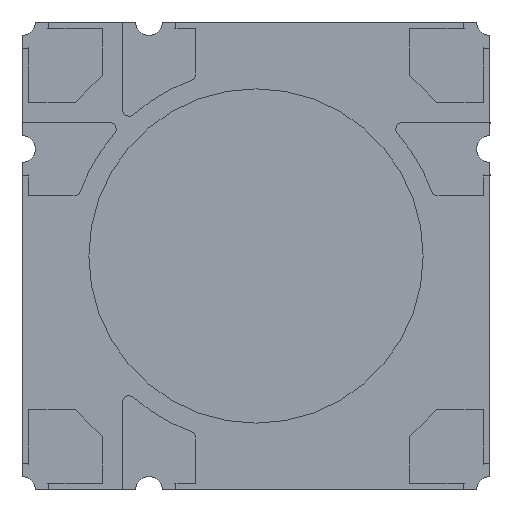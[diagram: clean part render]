
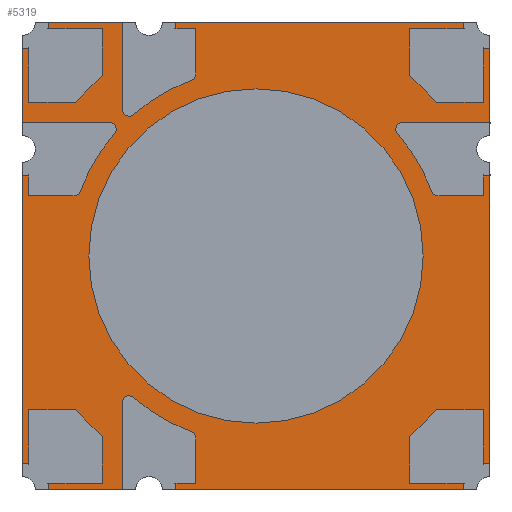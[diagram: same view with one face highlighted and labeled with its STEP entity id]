
A CAD part, front view. The second image highlights one B-rep face of the part: STEP entity #5319.
In plain terms, the highlighted planar face has unit normal (0, -1, 0).
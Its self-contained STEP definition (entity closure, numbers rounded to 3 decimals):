
#561 = LINE ( 'NONE', #563, #6079 ) ;
#563 = CARTESIAN_POINT ( 'NONE',  ( 3.5, 0.002, 3.5 ) ) ;
#564 = DIRECTION ( 'NONE',  ( 0., 0., -1. ) ) ;
#643 = LINE ( 'NONE', #644, #6115 ) ;
#644 = CARTESIAN_POINT ( 'NONE',  ( 3.5, 0.002, 3.5 ) ) ;
#645 = DIRECTION ( 'NONE',  ( 1., 0., 0. ) ) ;
#1491 = ORIENTED_EDGE ( 'NONE', *, *, #9446, .F. ) ;
#1495 = ORIENTED_EDGE ( 'NONE', *, *, #5605, .T. ) ;
#1553 = ORIENTED_EDGE ( 'NONE', *, *, #9441, .F. ) ;
#1674 = CARTESIAN_POINT ( 'NONE',  ( -3.5, 0.002, 1.6 ) ) ;
#1675 = DIRECTION ( 'NONE',  ( 0., 1., 0. ) ) ;
#1676 = DIRECTION ( 'NONE',  ( 0., 0., 1. ) ) ;
#2231 = CIRCLE ( 'NONE', #2234, 0.2 ) ;
#2233 = CIRCLE ( 'NONE', #2236, 0.2 ) ;
#2234 = AXIS2_PLACEMENT_3D ( 'NONE', #4932, #4933, #4935 ) ;
#2235 = CIRCLE ( 'NONE', #2238, 0.2 ) ;
#2236 = AXIS2_PLACEMENT_3D ( 'NONE', #4960, #4961, #4962 ) ;
#2237 = CIRCLE ( 'NONE', #2242, 0.2 ) ;
#2238 = AXIS2_PLACEMENT_3D ( 'NONE', #4979, #4980, #4981 ) ;
#2240 = CIRCLE ( 'NONE', #2243, 0.2 ) ;
#2242 = AXIS2_PLACEMENT_3D ( 'NONE', #4986, #4987, #4988 ) ;
#2243 = AXIS2_PLACEMENT_3D ( 'NONE', #5023, #5024, #5025 ) ;
#2245 = CIRCLE ( 'NONE', #2246, 0.2 ) ;
#2246 = AXIS2_PLACEMENT_3D ( 'NONE', #5043, #5044, #5045 ) ;
#2259 = VECTOR ( 'NONE', #5077, 1000. ) ;
#2273 = CIRCLE ( 'NONE', #2276, 0.2 ) ;
#2276 = AXIS2_PLACEMENT_3D ( 'NONE', #1674, #1675, #1676 ) ;
#2560 = VERTEX_POINT ( 'NONE', #3628 ) ;
#2562 = VERTEX_POINT ( 'NONE', #3630 ) ;
#2564 = VERTEX_POINT ( 'NONE', #3632 ) ;
#2566 = VERTEX_POINT ( 'NONE', #3634 ) ;
#2569 = VERTEX_POINT ( 'NONE', #3637 ) ;
#2570 = VERTEX_POINT ( 'NONE', #3638 ) ;
#2571 = VERTEX_POINT ( 'NONE', #3639 ) ;
#2573 = VERTEX_POINT ( 'NONE', #3641 ) ;
#2576 = VERTEX_POINT ( 'NONE', #3644 ) ;
#2580 = VERTEX_POINT ( 'NONE', #3648 ) ;
#2585 = VERTEX_POINT ( 'NONE', #3653 ) ;
#2591 = VERTEX_POINT ( 'NONE', #3659 ) ;
#2592 = VERTEX_POINT ( 'NONE', #3660 ) ;
#2596 = VERTEX_POINT ( 'NONE', #3664 ) ;
#2602 = VERTEX_POINT ( 'NONE', #3670 ) ;
#2635 = VERTEX_POINT ( 'NONE', #3703 ) ;
#2639 = VERTEX_POINT ( 'NONE', #3707 ) ;
#2873 = EDGE_LOOP ( 'NONE', ( #10693, #10736, #1553, #8045, #13209, #8042, #11123, #11125, #11127, #11124, #8043, #1491, #1495, #11142, #11144, #11122, #11133 ) ) ;
#3628 = CARTESIAN_POINT ( 'NONE',  ( 3.3, 0.002, -3.5 ) ) ;
#3630 = CARTESIAN_POINT ( 'NONE',  ( -1.8, 0.002, -3.5 ) ) ;
#3632 = CARTESIAN_POINT ( 'NONE',  ( 3.5, 0.002, 1.4 ) ) ;
#3634 = CARTESIAN_POINT ( 'NONE',  ( -3.5, 0.002, 1.8 ) ) ;
#3637 = CARTESIAN_POINT ( 'NONE',  ( -3.3, 0.002, -3.5 ) ) ;
#3638 = CARTESIAN_POINT ( 'NONE',  ( 3.5, 0.002, -3.3 ) ) ;
#3639 = CARTESIAN_POINT ( 'NONE',  ( -3.5, 0.002, 3.3 ) ) ;
#3641 = CARTESIAN_POINT ( 'NONE',  ( 3.3, 0.002, 3.5 ) ) ;
#3644 = CARTESIAN_POINT ( 'NONE',  ( -1.4, 0.002, 3.5 ) ) ;
#3648 = CARTESIAN_POINT ( 'NONE',  ( -3.5, 0.002, 1.4 ) ) ;
#3653 = CARTESIAN_POINT ( 'NONE',  ( -1.8, 0.002, 3.5 ) ) ;
#3659 = CARTESIAN_POINT ( 'NONE',  ( 3.5, 0.002, 3.3 ) ) ;
#3660 = CARTESIAN_POINT ( 'NONE',  ( -3.3, 0.002, 3.5 ) ) ;
#3664 = CARTESIAN_POINT ( 'NONE',  ( -3.5, 0.002, -3.3 ) ) ;
#3670 = CARTESIAN_POINT ( 'NONE',  ( 3.5, 0.002, 1.8 ) ) ;
#3703 = CARTESIAN_POINT ( 'NONE',  ( -1.6, 0.002, -3.3 ) ) ;
#3707 = CARTESIAN_POINT ( 'NONE',  ( -1.4, 0.002, -3.5 ) ) ;
#4932 = CARTESIAN_POINT ( 'NONE',  ( -3.5, 0.002, 3.5 ) ) ;
#4933 = DIRECTION ( 'NONE',  ( 0., 1., 0. ) ) ;
#4935 = DIRECTION ( 'NONE',  ( 0., 0., -1. ) ) ;
#4960 = CARTESIAN_POINT ( 'NONE',  ( -1.6, 0.002, 3.5 ) ) ;
#4961 = DIRECTION ( 'NONE',  ( 0., 1., 0. ) ) ;
#4962 = DIRECTION ( 'NONE',  ( 0., 0., -1. ) ) ;
#4979 = CARTESIAN_POINT ( 'NONE',  ( 3.5, 0.002, 3.5 ) ) ;
#4980 = DIRECTION ( 'NONE',  ( 0., 1., 0. ) ) ;
#4981 = DIRECTION ( 'NONE',  ( 0., 0., -1. ) ) ;
#4986 = CARTESIAN_POINT ( 'NONE',  ( 3.5, 0.002, 1.6 ) ) ;
#4987 = DIRECTION ( 'NONE',  ( 0., 1., 0. ) ) ;
#4988 = DIRECTION ( 'NONE',  ( 0., 0., -1. ) ) ;
#5023 = CARTESIAN_POINT ( 'NONE',  ( 3.5, 0.002, -3.5 ) ) ;
#5024 = DIRECTION ( 'NONE',  ( 0., 1., 0. ) ) ;
#5025 = DIRECTION ( 'NONE',  ( 0., 0., 1. ) ) ;
#5043 = CARTESIAN_POINT ( 'NONE',  ( -1.6, 0.002, -3.5 ) ) ;
#5044 = DIRECTION ( 'NONE',  ( 0., 1., 0. ) ) ;
#5045 = DIRECTION ( 'NONE',  ( 0., 0., 1. ) ) ;
#5068 = CARTESIAN_POINT ( 'NONE',  ( 3.5, 0.002, 3.5 ) ) ;
#5072 = LINE ( 'NONE', #5068, #2259 ) ;
#5077 = DIRECTION ( 'NONE',  ( 1., 0., 0. ) ) ;
#5230 = EDGE_CURVE ( 'NONE', #2566, #2571, #8548, .T. ) ;
#5319 = ADVANCED_FACE ( 'NONE', ( #9659 ), #9645, .F. ) ;
#5600 = EDGE_CURVE ( 'NONE', #2592, #2571, #2231, .T. ) ;
#5602 = EDGE_CURVE ( 'NONE', #2576, #2585, #2233, .T. ) ;
#5605 = EDGE_CURVE ( 'NONE', #2591, #2573, #2235, .T. ) ;
#5607 = EDGE_CURVE ( 'NONE', #2564, #2602, #2237, .T. ) ;
#5610 = EDGE_CURVE ( 'NONE', #2560, #2570, #2240, .T. ) ;
#5612 = EDGE_CURVE ( 'NONE', #2562, #2635, #2245, .T. ) ;
#5623 = EDGE_CURVE ( 'NONE', #2592, #2585, #5072, .T. ) ;
#5639 = EDGE_CURVE ( 'NONE', #2566, #2580, #2273, .T. ) ;
#6079 = VECTOR ( 'NONE', #564, 1000. ) ;
#6115 = VECTOR ( 'NONE', #645, 1000. ) ;
#6582 = CARTESIAN_POINT ( 'NONE',  ( -1.6, 0.002, -3.5 ) ) ;
#6584 = DIRECTION ( 'NONE',  ( 0., 1., 0. ) ) ;
#6586 = DIRECTION ( 'NONE',  ( 0., 0., 1. ) ) ;
#6636 = LINE ( 'NONE', #6637, #10773 ) ;
#6637 = CARTESIAN_POINT ( 'NONE',  ( -3.5, 0.002, 3.5 ) ) ;
#6638 = DIRECTION ( 'NONE',  ( 0., 0., 1. ) ) ;
#6651 = LINE ( 'NONE', #6653, #10780 ) ;
#6653 = CARTESIAN_POINT ( 'NONE',  ( 3.5, 0.002, 3.5 ) ) ;
#6654 = DIRECTION ( 'NONE',  ( 0., 0., -1. ) ) ;
#6759 = LINE ( 'NONE', #6761, #10827 ) ;
#6761 = CARTESIAN_POINT ( 'NONE',  ( 3.5, 0.002, -3.5 ) ) ;
#6762 = DIRECTION ( 'NONE',  ( -1., 0., 0. ) ) ;
#6835 = LINE ( 'NONE', #6837, #10861 ) ;
#6837 = CARTESIAN_POINT ( 'NONE',  ( 3.5, 0.002, -3.5 ) ) ;
#6838 = DIRECTION ( 'NONE',  ( -1., 0., 0. ) ) ;
#6993 = CARTESIAN_POINT ( 'NONE',  ( -3.5, 0.002, -3.5 ) ) ;
#6994 = DIRECTION ( 'NONE',  ( 0., 1., 0. ) ) ;
#6995 = DIRECTION ( 'NONE',  ( 0., 0., 1. ) ) ;
#8042 = ORIENTED_EDGE ( 'NONE', *, *, #5612, .T. ) ;
#8043 = ORIENTED_EDGE ( 'NONE', *, *, #5607, .T. ) ;
#8045 = ORIENTED_EDGE ( 'NONE', *, *, #12100, .T. ) ;
#8548 = LINE ( 'NONE', #8559, #10659 ) ;
#8559 = CARTESIAN_POINT ( 'NONE',  ( -3.5, 0.002, 3.5 ) ) ;
#8561 = DIRECTION ( 'NONE',  ( 0., 0., 1. ) ) ;
#9428 = EDGE_CURVE ( 'NONE', #2635, #2639, #10755, .T. ) ;
#9441 = EDGE_CURVE ( 'NONE', #2596, #2580, #6636, .T. ) ;
#9446 = EDGE_CURVE ( 'NONE', #2591, #2602, #6651, .T. ) ;
#9482 = EDGE_CURVE ( 'NONE', #2560, #2639, #6759, .T. ) ;
#9645 = PLANE ( 'NONE',  #12387 ) ;
#9659 = FACE_OUTER_BOUND ( 'NONE', #2873, .T. ) ;
#9669 = CARTESIAN_POINT ( 'NONE',  ( -3.5, 0.002, -3.5 ) ) ;
#9670 = DIRECTION ( 'NONE',  ( 0., 1., 0. ) ) ;
#9671 = DIRECTION ( 'NONE',  ( 0., 0., 1. ) ) ;
#10208 = EDGE_CURVE ( 'NONE', #2562, #2569, #6835, .T. ) ;
#10659 = VECTOR ( 'NONE', #8561, 1000. ) ;
#10693 = ORIENTED_EDGE ( 'NONE', *, *, #5230, .F. ) ;
#10736 = ORIENTED_EDGE ( 'NONE', *, *, #5639, .T. ) ;
#10755 = CIRCLE ( 'NONE', #10758, 0.2 ) ;
#10758 = AXIS2_PLACEMENT_3D ( 'NONE', #6582, #6584, #6586 ) ;
#10773 = VECTOR ( 'NONE', #6638, 1000. ) ;
#10780 = VECTOR ( 'NONE', #6654, 1000. ) ;
#10827 = VECTOR ( 'NONE', #6762, 1000. ) ;
#10861 = VECTOR ( 'NONE', #6838, 1000. ) ;
#10893 = CIRCLE ( 'NONE', #10894, 0.2 ) ;
#10894 = AXIS2_PLACEMENT_3D ( 'NONE', #6993, #6994, #6995 ) ;
#11122 = ORIENTED_EDGE ( 'NONE', *, *, #5623, .F. ) ;
#11123 = ORIENTED_EDGE ( 'NONE', *, *, #9428, .T. ) ;
#11124 = ORIENTED_EDGE ( 'NONE', *, *, #12569, .F. ) ;
#11125 = ORIENTED_EDGE ( 'NONE', *, *, #9482, .F. ) ;
#11127 = ORIENTED_EDGE ( 'NONE', *, *, #5610, .T. ) ;
#11133 = ORIENTED_EDGE ( 'NONE', *, *, #5600, .T. ) ;
#11142 = ORIENTED_EDGE ( 'NONE', *, *, #12596, .F. ) ;
#11144 = ORIENTED_EDGE ( 'NONE', *, *, #5602, .T. ) ;
#12100 = EDGE_CURVE ( 'NONE', #2596, #2569, #10893, .T. ) ;
#12387 = AXIS2_PLACEMENT_3D ( 'NONE', #9669, #9670, #9671 ) ;
#12569 = EDGE_CURVE ( 'NONE', #2564, #2570, #561, .T. ) ;
#12596 = EDGE_CURVE ( 'NONE', #2576, #2573, #643, .T. ) ;
#13209 = ORIENTED_EDGE ( 'NONE', *, *, #10208, .F. ) ;
